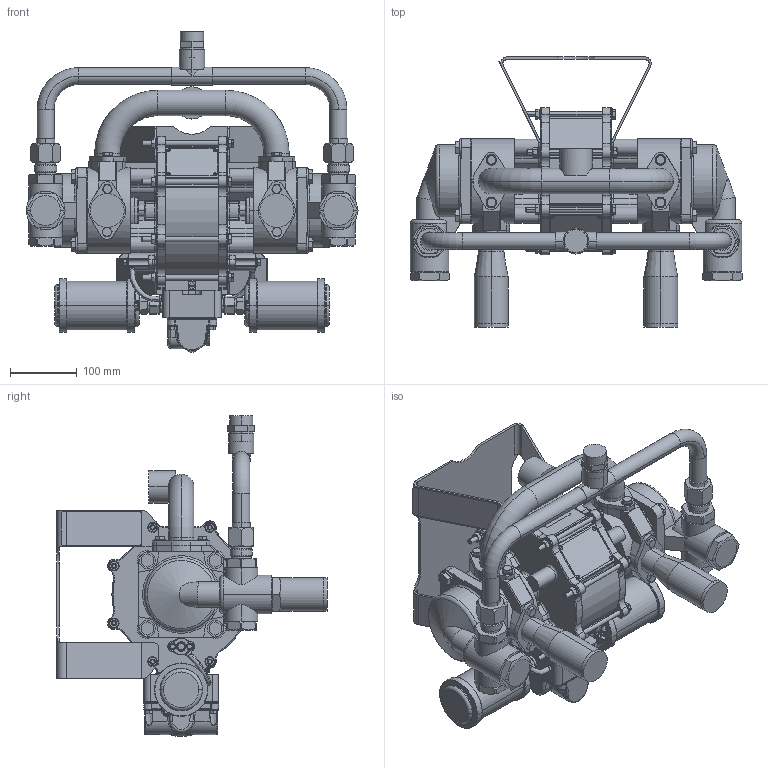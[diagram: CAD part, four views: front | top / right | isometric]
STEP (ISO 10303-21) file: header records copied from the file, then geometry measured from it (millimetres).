
FILE_DESCRIPTION((''),'2;1');
FILE_NAME('220666-EN-ZAC_PRT','2019-12-31T16:01:06',('qusrh3'),(''),'CREO PARAMETRIC BY PTC INC, 2019030','CREO PARAMETRIC BY PTC INC, 2019030','');
FILE_SCHEMA(('CONFIG_CONTROL_DESIGN'));
Products named in the file (1): 220666-EN-ZAC_PRT
Bounding box: 498.06 x 405.35 x 481 mm (x, y, z)
Surface area: 1246337.4 mm2 (no closed solid volume)
Topology: 0 solids, 189 shells, 2313 faces, 5925 edges, 3744 vertices
Faces by surface type: plane 881, cylinder 686, cone 329, torus 228, bspline 148, sphere 39, extrusion 2
Entity records: 80201 total; most frequent: CARTESIAN_POINT 26567, DIRECTION 11332, ORIENTED_EDGE 10512, EDGE_CURVE 5925, AXIS2_PLACEMENT_3D 4419, VERTEX_POINT 3744, VECTOR 2494, LINE 2492
